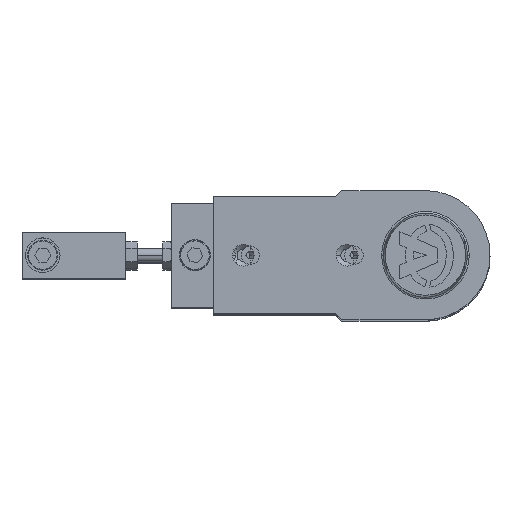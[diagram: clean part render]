
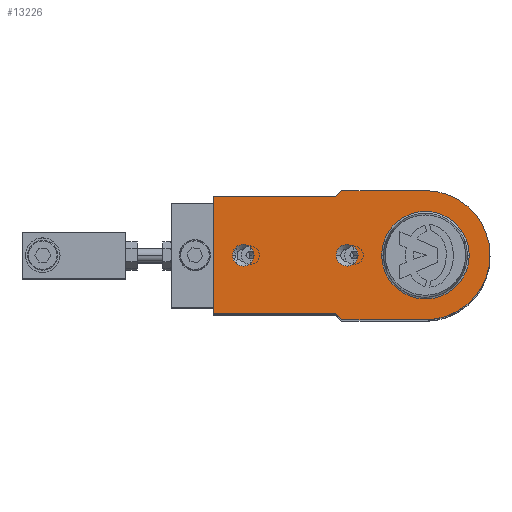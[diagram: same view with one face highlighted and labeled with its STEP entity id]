
A CAD part, top view. The second image highlights one B-rep face of the part: STEP entity #13226.
In plain terms, the highlighted planar face has unit normal (0, 0, 1).
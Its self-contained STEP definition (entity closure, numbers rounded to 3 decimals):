
#118 = EDGE_CURVE ( 'NONE', #14980, #4720, #7918, .T. ) ;
#195 = DIRECTION ( 'NONE',  ( 0., 0., -1. ) ) ;
#351 = VECTOR ( 'NONE', #4514, 1000. ) ;
#370 = ORIENTED_EDGE ( 'NONE', *, *, #118, .T. ) ;
#660 = DIRECTION ( 'NONE',  ( 1., 0., 0. ) ) ;
#667 = AXIS2_PLACEMENT_3D ( 'NONE', #12253, #12310, #7493 ) ;
#748 = EDGE_LOOP ( 'NONE', ( #14792, #3583, #1609, #1504, #9881, #1464, #7772, #370, #9856 ) ) ;
#995 = CARTESIAN_POINT ( 'NONE',  ( 36.25, 28., 37. ) ) ;
#998 = CARTESIAN_POINT ( 'NONE',  ( 92., -25.25, 37. ) ) ;
#1220 = DIRECTION ( 'NONE',  ( 0., 0., 1. ) ) ;
#1224 = CARTESIAN_POINT ( 'NONE',  ( 38.7, 0., 37. ) ) ;
#1264 = EDGE_CURVE ( 'NONE', #1763, #10905, #8998, .T. ) ;
#1356 = EDGE_CURVE ( 'NONE', #14431, #14985, #11771, .T. ) ;
#1464 = ORIENTED_EDGE ( 'NONE', *, *, #3764, .T. ) ;
#1504 = ORIENTED_EDGE ( 'NONE', *, *, #7029, .T. ) ;
#1609 = ORIENTED_EDGE ( 'NONE', *, *, #10319, .T. ) ;
#1705 = LINE ( 'NONE', #11511, #15169 ) ;
#1761 = DIRECTION ( 'NONE',  ( 0., 0., 1. ) ) ;
#1763 = VERTEX_POINT ( 'NONE', #1224 ) ;
#1808 = CARTESIAN_POINT ( 'NONE',  ( 29.3, 0., 37. ) ) ;
#1974 = CARTESIAN_POINT ( 'NONE',  ( 79., 0., 37. ) ) ;
#2185 = CARTESIAN_POINT ( 'NONE',  ( 36.25, -28., 37. ) ) ;
#2335 = EDGE_CURVE ( 'NONE', #14985, #14431, #5633, .T. ) ;
#2428 = LINE ( 'NONE', #5898, #5212 ) ;
#2744 = CARTESIAN_POINT ( 'NONE',  ( 36.25, 28., 37. ) ) ;
#3045 = FACE_BOUND ( 'NONE', #4353, .T. ) ;
#3121 = LINE ( 'NONE', #9114, #351 ) ;
#3148 = VERTEX_POINT ( 'NONE', #995 ) ;
#3467 = AXIS2_PLACEMENT_3D ( 'NONE', #4652, #11890, #9444 ) ;
#3505 = CARTESIAN_POINT ( 'NONE',  ( 0., 0., 37. ) ) ;
#3572 = CARTESIAN_POINT ( 'NONE',  ( 74.3, 0., 37. ) ) ;
#3583 = ORIENTED_EDGE ( 'NONE', *, *, #10297, .T. ) ;
#3754 = CARTESIAN_POINT ( 'NONE',  ( 0., 0., 37. ) ) ;
#3764 = EDGE_CURVE ( 'NONE', #14404, #13204, #12171, .T. ) ;
#3950 = DIRECTION ( 'NONE',  ( -0.707, 0.707, 0. ) ) ;
#4353 = EDGE_LOOP ( 'NONE', ( #9433, #5976 ) ) ;
#4514 = DIRECTION ( 'NONE',  ( -1., 0., 0. ) ) ;
#4652 = CARTESIAN_POINT ( 'NONE',  ( 34., 0., 37. ) ) ;
#4663 = VERTEX_POINT ( 'NONE', #8919 ) ;
#4720 = VERTEX_POINT ( 'NONE', #6633 ) ;
#4753 = ORIENTED_EDGE ( 'NONE', *, *, #2335, .T. ) ;
#4957 = EDGE_CURVE ( 'NONE', #9969, #14404, #2428, .T. ) ;
#5050 = AXIS2_PLACEMENT_3D ( 'NONE', #7744, #1761, #660 ) ;
#5064 = AXIS2_PLACEMENT_3D ( 'NONE', #3505, #9396, #9351 ) ;
#5212 = VECTOR ( 'NONE', #14367, 1000. ) ;
#5469 = AXIS2_PLACEMENT_3D ( 'NONE', #3754, #195, #9443 ) ;
#5490 = DIRECTION ( 'NONE',  ( 0., 0., 1. ) ) ;
#5588 = EDGE_CURVE ( 'NONE', #13204, #14980, #1705, .T. ) ;
#5633 = CIRCLE ( 'NONE', #5469, 18.996 ) ;
#5634 = VERTEX_POINT ( 'NONE', #5653 ) ;
#5653 = CARTESIAN_POINT ( 'NONE',  ( 0., 28., 37. ) ) ;
#5700 = VECTOR ( 'NONE', #14932, 1000. ) ;
#5898 = CARTESIAN_POINT ( 'NONE',  ( 0., -28., 37. ) ) ;
#5976 = ORIENTED_EDGE ( 'NONE', *, *, #9891, .F. ) ;
#6558 = CARTESIAN_POINT ( 'NONE',  ( 36.25, -28., 37. ) ) ;
#6561 = CARTESIAN_POINT ( 'NONE',  ( -28., 0., 37. ) ) ;
#6633 = CARTESIAN_POINT ( 'NONE',  ( 92., 25.25, 37. ) ) ;
#6755 = FACE_BOUND ( 'NONE', #14749, .T. ) ;
#6931 = CARTESIAN_POINT ( 'NONE',  ( 0., 0., 37. ) ) ;
#7029 = EDGE_CURVE ( 'NONE', #12657, #9969, #8750, .T. ) ;
#7444 = EDGE_CURVE ( 'NONE', #8106, #9001, #11707, .T. ) ;
#7479 = CARTESIAN_POINT ( 'NONE',  ( 0., 0., 37. ) ) ;
#7493 = DIRECTION ( 'NONE',  ( 1., 0., 0. ) ) ;
#7744 = CARTESIAN_POINT ( 'NONE',  ( 34., 0., 37. ) ) ;
#7772 = ORIENTED_EDGE ( 'NONE', *, *, #5588, .T. ) ;
#7782 = DIRECTION ( 'NONE',  ( 1., 0., 0. ) ) ;
#7864 = FACE_OUTER_BOUND ( 'NONE', #748, .T. ) ;
#7918 = LINE ( 'NONE', #14333, #12168 ) ;
#7990 = EDGE_CURVE ( 'NONE', #10905, #1763, #14244, .T. ) ;
#8106 = VERTEX_POINT ( 'NONE', #12551 ) ;
#8750 = CIRCLE ( 'NONE', #667, 28. ) ;
#8919 = CARTESIAN_POINT ( 'NONE',  ( 39., 25.25, 37. ) ) ;
#8998 = CIRCLE ( 'NONE', #3467, 4.7 ) ;
#9001 = VERTEX_POINT ( 'NONE', #3572 ) ;
#9114 = CARTESIAN_POINT ( 'NONE',  ( 0., 28., 37. ) ) ;
#9351 = DIRECTION ( 'NONE',  ( 1., 0., 0. ) ) ;
#9392 = ORIENTED_EDGE ( 'NONE', *, *, #1356, .T. ) ;
#9396 = DIRECTION ( 'NONE',  ( 0., 0., -1. ) ) ;
#9433 = ORIENTED_EDGE ( 'NONE', *, *, #7444, .F. ) ;
#9443 = DIRECTION ( 'NONE',  ( 1., 0., 0. ) ) ;
#9444 = DIRECTION ( 'NONE',  ( 1., 0., 0. ) ) ;
#9477 = CARTESIAN_POINT ( 'NONE',  ( 79., 0., 37. ) ) ;
#9538 = DIRECTION ( 'NONE',  ( 0., 1., 0. ) ) ;
#9693 = CARTESIAN_POINT ( 'NONE',  ( 0., -28., 37. ) ) ;
#9856 = ORIENTED_EDGE ( 'NONE', *, *, #11258, .T. ) ;
#9858 = CARTESIAN_POINT ( 'NONE',  ( 39., -25.25, 37. ) ) ;
#9881 = ORIENTED_EDGE ( 'NONE', *, *, #4957, .T. ) ;
#9891 = EDGE_CURVE ( 'NONE', #9001, #8106, #14217, .T. ) ;
#9969 = VERTEX_POINT ( 'NONE', #9693 ) ;
#10297 = EDGE_CURVE ( 'NONE', #3148, #5634, #3121, .T. ) ;
#10319 = EDGE_CURVE ( 'NONE', #5634, #12657, #12018, .T. ) ;
#10320 = VECTOR ( 'NONE', #13061, 1000. ) ;
#10357 = DIRECTION ( 'NONE',  ( 1., 0., 0. ) ) ;
#10583 = DIRECTION ( 'NONE',  ( 1., 0., 0. ) ) ;
#10685 = CARTESIAN_POINT ( 'NONE',  ( 39., 25.25, 37. ) ) ;
#10905 = VERTEX_POINT ( 'NONE', #1808 ) ;
#11057 = VECTOR ( 'NONE', #3950, 1000. ) ;
#11168 = DIRECTION ( 'NONE',  ( 1., 0., 0. ) ) ;
#11258 = EDGE_CURVE ( 'NONE', #4720, #4663, #13449, .T. ) ;
#11264 = AXIS2_PLACEMENT_3D ( 'NONE', #9477, #1220, #10583 ) ;
#11511 = CARTESIAN_POINT ( 'NONE',  ( 92., -25.25, 37. ) ) ;
#11707 = CIRCLE ( 'NONE', #13353, 4.7 ) ;
#11749 = CARTESIAN_POINT ( 'NONE',  ( 18.996, 0., 37. ) ) ;
#11771 = CIRCLE ( 'NONE', #5064, 18.996 ) ;
#11890 = DIRECTION ( 'NONE',  ( 0., 0., 1. ) ) ;
#12018 = CIRCLE ( 'NONE', #14822, 28. ) ;
#12168 = VECTOR ( 'NONE', #9538, 1000. ) ;
#12171 = LINE ( 'NONE', #6558, #5700 ) ;
#12253 = CARTESIAN_POINT ( 'NONE',  ( 0., 0., 37. ) ) ;
#12310 = DIRECTION ( 'NONE',  ( 0., 0., 1. ) ) ;
#12551 = CARTESIAN_POINT ( 'NONE',  ( 83.7, 0., 37. ) ) ;
#12657 = VERTEX_POINT ( 'NONE', #6561 ) ;
#12686 = FACE_BOUND ( 'NONE', #14286, .T. ) ;
#12908 = ORIENTED_EDGE ( 'NONE', *, *, #1264, .F. ) ;
#12924 = CARTESIAN_POINT ( 'NONE',  ( -18.996, 0., 37. ) ) ;
#13061 = DIRECTION ( 'NONE',  ( -1., 0., 0. ) ) ;
#13204 = VERTEX_POINT ( 'NONE', #9858 ) ;
#13226 = ADVANCED_FACE ( 'NONE', ( #6755, #12686, #3045, #7864 ), #13372, .T. ) ;
#13353 = AXIS2_PLACEMENT_3D ( 'NONE', #1974, #5490, #13711 ) ;
#13372 = PLANE ( 'NONE',  #13683 ) ;
#13449 = LINE ( 'NONE', #10685, #10320 ) ;
#13683 = AXIS2_PLACEMENT_3D ( 'NONE', #7479, #14655, #11168 ) ;
#13709 = ORIENTED_EDGE ( 'NONE', *, *, #7990, .F. ) ;
#13711 = DIRECTION ( 'NONE',  ( 1., 0., 0. ) ) ;
#14038 = EDGE_CURVE ( 'NONE', #4663, #3148, #14362, .T. ) ;
#14217 = CIRCLE ( 'NONE', #11264, 4.7 ) ;
#14244 = CIRCLE ( 'NONE', #5050, 4.7 ) ;
#14286 = EDGE_LOOP ( 'NONE', ( #12908, #13709 ) ) ;
#14333 = CARTESIAN_POINT ( 'NONE',  ( 92., 25.25, 37. ) ) ;
#14362 = LINE ( 'NONE', #2744, #11057 ) ;
#14367 = DIRECTION ( 'NONE',  ( 1., 0., 0. ) ) ;
#14404 = VERTEX_POINT ( 'NONE', #2185 ) ;
#14431 = VERTEX_POINT ( 'NONE', #12924 ) ;
#14655 = DIRECTION ( 'NONE',  ( 0., 0., 1. ) ) ;
#14749 = EDGE_LOOP ( 'NONE', ( #4753, #9392 ) ) ;
#14792 = ORIENTED_EDGE ( 'NONE', *, *, #14038, .T. ) ;
#14822 = AXIS2_PLACEMENT_3D ( 'NONE', #6931, #15214, #10357 ) ;
#14932 = DIRECTION ( 'NONE',  ( 0.707, 0.707, 0. ) ) ;
#14980 = VERTEX_POINT ( 'NONE', #998 ) ;
#14985 = VERTEX_POINT ( 'NONE', #11749 ) ;
#15169 = VECTOR ( 'NONE', #7782, 1000. ) ;
#15214 = DIRECTION ( 'NONE',  ( 0., 0., 1. ) ) ;
